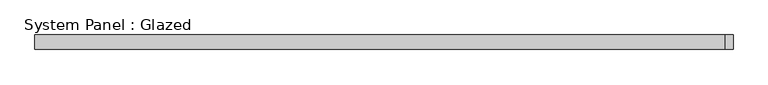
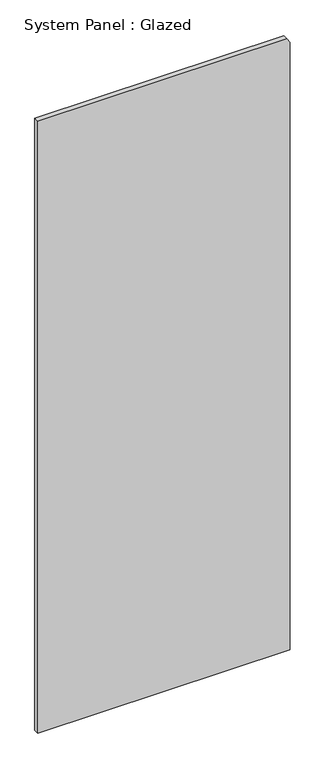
"""IFC4 building model written with IfcOpenShell, lengths in millimetres: plate geometry, System Panel : Glazed."""

from ifc_helpers import new_model, si_unit, frame, origin, place, context, project, spatial, polyline, outline, extrude, source, transform, mapped, element, save


def system_panel_glazed_9e3d2c9e(model_context):
    return source(origin(), model_context, "Body", "SweptSolid", [
        extrude(outline(polyline([(0.0, -604.8481175), (0.0, 604.8481175), (3077.0285016, 604.8481175), (3100.0, 589.9955022), (3100.0, -604.8481175), (0.0, -604.8481175)])), frame((0.0, -12.5, 0.0), z_axis=(0.0, 1.0, 0.0), x_axis=(0.0, 0.0, 1.0)), (0.0, 0.0, 1.0), 25.0),
    ])


if __name__ == "__main__":
    model = new_model("IFC4")
    model_context = context("Model", 3, world=origin())
    ifc_project = project(units=[si_unit("LENGTHUNIT", "METRE", prefix="MILLI")], contexts=[model_context])
    site = spatial("IfcSite", under=ifc_project)
    building = spatial("IfcBuilding", under=site)
    placement = place(None, origin())
    system_panel_glazed_shape = system_panel_glazed_9e3d2c9e(model_context)
    element("IfcPlate", 1, ObjectType="System Panel : Glazed", at=placement, inside=building, context=model_context, shape_type="MappedRepresentation", body=[
        mapped(system_panel_glazed_shape, transform((0.0, 0.0, 0.0), x_axis=(1.0, 0.0, 0.0), y_axis=(0.0, 1.0, 0.0), z_axis=(0.0, 0.0, 1.0))),
    ])
    save(model, "model.ifc")
